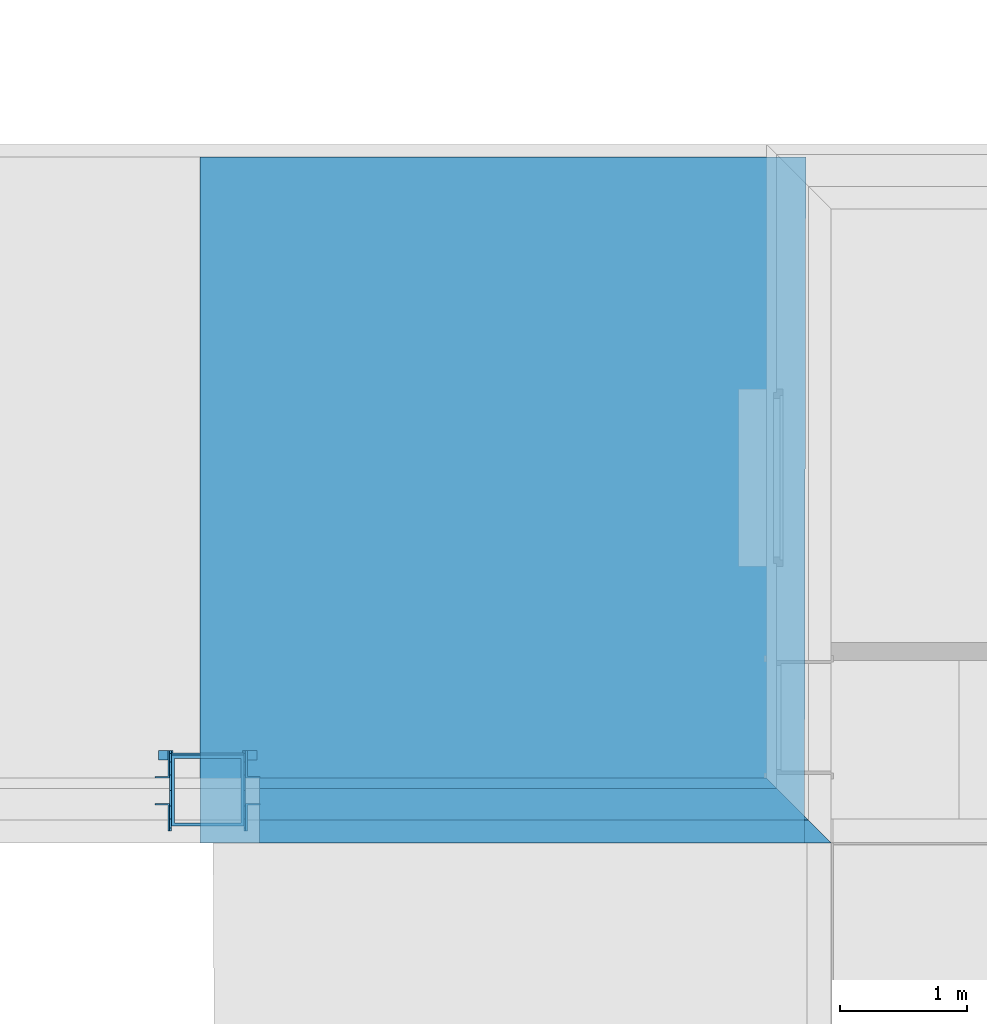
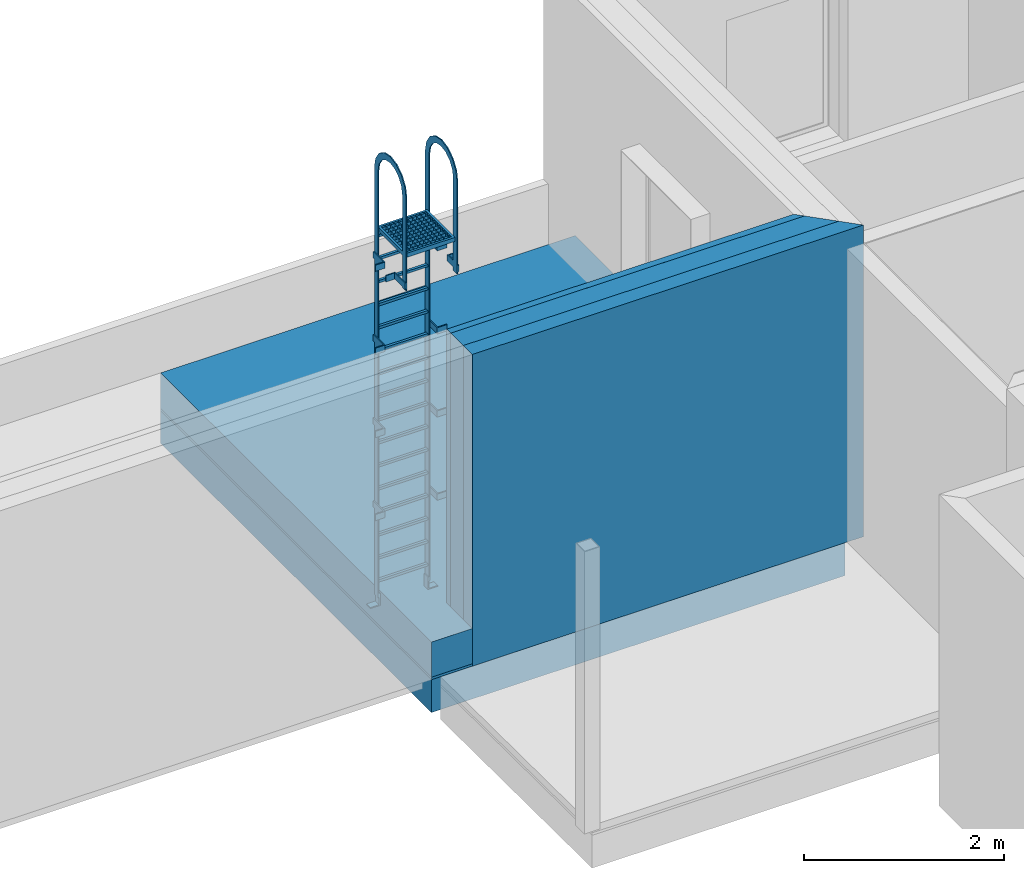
# One storey, part 16 of 100: 6 building element parts, 1 discrete accessory, 2 elements without a shape of their own.
"""IFC2X3 building model written with IfcOpenShell, lengths in millimetres."""

from ifc_helpers import new_model, entity, si_unit, converted_unit, derived_unit, money_unit, direction, frame, origin_with_axes, place, context, subcontext, project, spatial, polyline, outline, extrude, open_shell, faceted_brep, surface_model, source, transform, mapped, material, type_object, element, aggregate, save


model = new_model("IFC2X3")

# Units and contexts
model_context = context("Model", 3, precision=0.01, world=origin_with_axes(), true_north=direction((0.0, 1.0)))
body_context = subcontext(model_context, "Body", "Model", "MODEL_VIEW")
ifc_project = project(units=[si_unit("LENGTHUNIT", "METRE", prefix="MILLI"), si_unit("AREAUNIT", "SQUARE_METRE"), si_unit("VOLUMEUNIT", "CUBIC_METRE"), converted_unit("PLANEANGLEUNIT", "DEGREE", entity("IfcPlaneAngleMeasure", 0.0174532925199), si_unit("PLANEANGLEUNIT", "RADIAN"), dimensions=[0, 0, 0, 0, 0, 0, 0]), si_unit("SOLIDANGLEUNIT", "STERADIAN"), money_unit("EUR"), converted_unit("TIMEUNIT", "Year", entity("IfcTimeMeasure", 31556926.0), si_unit("TIMEUNIT", "SECOND"), dimensions=[0, 0, 1, 0, 0, 0, 0]), si_unit("MASSUNIT", "GRAM", prefix="KILO"), si_unit("THERMODYNAMICTEMPERATUREUNIT", "DEGREE_CELSIUS"), si_unit("LUMINOUSINTENSITYUNIT", "LUMEN"), si_unit("ENERGYUNIT", "JOULE", prefix="MEGA"), derived_unit("THERMALCONDUCTANCEUNIT", [(si_unit("POWERUNIT", "WATT"), 1), (si_unit("LENGTHUNIT", "METRE"), -1), (si_unit("THERMODYNAMICTEMPERATUREUNIT", "KELVIN"), -1)]), derived_unit("SPECIFICHEATCAPACITYUNIT", [(si_unit("ENERGYUNIT", "JOULE"), 1), (si_unit("MASSUNIT", "GRAM", prefix="KILO"), -1), (si_unit("THERMODYNAMICTEMPERATUREUNIT", "KELVIN"), -1)]), derived_unit("MASSDENSITYUNIT", [(si_unit("MASSUNIT", "GRAM", prefix="KILO"), 1), (si_unit("VOLUMEUNIT", "CUBIC_METRE"), -1)])], contexts=[model_context])

# Site, building, storey
site_placement = place(None, origin_with_axes())
site = spatial("IfcSite", under=ifc_project, at=site_placement, Name="Politse- ja Piirivalveameti ning Päästeameti ühishoone", CompositionType="ELEMENT")
building_placement = place(site_placement, origin_with_axes())
building = spatial("IfcBuilding", under=site, at=building_placement, Name="Politse- ja Piirivalveameti ning Päästeameti ühishoone", CompositionType="ELEMENT")
storey_placement = place(building_placement, frame((0.0, 0.0, 3800.0), z_axis=(0.0, 0.0, 1.0), x_axis=(1.0, 0.0, 0.0)))
storey = spatial("IfcBuildingStorey", under=building, at=storey_placement, Name="Teine korrus", CompositionType="ELEMENT", Elevation=3800.0)

# Discrete accessory
discrete_accessory_type = type_object("IfcDiscreteAccessoryType", Name="Vertical Ladder 23")
shared_shape = source(origin_with_axes(), body_context, "Body", "SurfaceModel", [
    faceted_brep([(-287.3, -180.0, 4556.9044187), (287.3, -180.0, 4556.9044187), (287.3, -180.0, 4606.9044187), (-287.3, -180.0, 4606.9044187), (-287.3, 380.0, 4556.9044187), (287.3, 380.0, 4556.9044187), (-261.9, -154.6, 4556.9044187), (261.9, -154.6, 4556.9044187), (261.9, 354.6, 4556.9044187), (-261.9, 354.6, 4556.9044187), (287.3, 380.0, 4606.9044187), (-287.3, 380.0, 4606.9044187), (-261.9, -154.6, 4606.9044187), (-261.9, 354.6, 4606.9044187), (261.9, 354.6, 4606.9044187), (261.9, -154.6, 4606.9044187)], [[[0, 1, 2, 3]], [[0, 4, 5, 1], [6, 7, 8, 9]], [[1, 5, 10, 2]], [[3, 2, 10, 11], [12, 13, 14, 15]], [[4, 0, 3, 11]], [[5, 4, 11, 10]], [[7, 6, 12, 15]], [[8, 7, 15, 14]], [[9, 8, 14, 13]], [[6, 9, 13, 12]]]),
    surface_model("IfcShellBasedSurfaceModel", [(-261.9, -130.0, 4606.9044187), (-261.9, -130.0, 4556.9044187), (261.9, -130.0, 4556.9044187), (261.9, -130.0, 4606.9044187)], [open_shell([[[0, 1, 2, 3]]])]),
    surface_model("IfcShellBasedSurfaceModel", [(-261.9, -80.0, 4606.9044187), (-261.9, -80.0, 4556.9044187), (261.9, -80.0, 4556.9044187), (261.9, -80.0, 4606.9044187)], [open_shell([[[0, 1, 2, 3]]])]),
    surface_model("IfcShellBasedSurfaceModel", [(-261.9, -30.0, 4606.9044187), (-261.9, -30.0, 4556.9044187), (261.9, -30.0, 4556.9044187), (261.9, -30.0, 4606.9044187)], [open_shell([[[0, 1, 2, 3]]])]),
    surface_model("IfcShellBasedSurfaceModel", [(-261.9, 20.0, 4606.9044187), (-261.9, 20.0, 4556.9044187), (261.9, 20.0, 4556.9044187), (261.9, 20.0, 4606.9044187)], [open_shell([[[0, 1, 2, 3]]])]),
    surface_model("IfcShellBasedSurfaceModel", [(-261.9, 70.0, 4606.9044187), (-261.9, 70.0, 4556.9044187), (261.9, 70.0, 4556.9044187), (261.9, 70.0, 4606.9044187)], [open_shell([[[0, 1, 2, 3]]])]),
    surface_model("IfcShellBasedSurfaceModel", [(-261.9, 120.0, 4606.9044187), (-261.9, 120.0, 4556.9044187), (261.9, 120.0, 4556.9044187), (261.9, 120.0, 4606.9044187)], [open_shell([[[0, 1, 2, 3]]])]),
    surface_model("IfcShellBasedSurfaceModel", [(-261.9, 170.0, 4606.9044187), (-261.9, 170.0, 4556.9044187), (261.9, 170.0, 4556.9044187), (261.9, 170.0, 4606.9044187)], [open_shell([[[0, 1, 2, 3]]])]),
    surface_model("IfcShellBasedSurfaceModel", [(-261.9, 220.0, 4606.9044187), (-261.9, 220.0, 4556.9044187), (261.9, 220.0, 4556.9044187), (261.9, 220.0, 4606.9044187)], [open_shell([[[0, 1, 2, 3]]])]),
    surface_model("IfcShellBasedSurfaceModel", [(-261.9, 270.0, 4606.9044187), (-261.9, 270.0, 4556.9044187), (261.9, 270.0, 4556.9044187), (261.9, 270.0, 4606.9044187)], [open_shell([[[0, 1, 2, 3]]])]),
    surface_model("IfcShellBasedSurfaceModel", [(-261.9, 320.0, 4606.9044187), (-261.9, 320.0, 4556.9044187), (261.9, 320.0, 4556.9044187), (261.9, 320.0, 4606.9044187)], [open_shell([[[0, 1, 2, 3]]])]),
    surface_model("IfcShellBasedSurfaceModel", [(262.7, -154.6, 4606.9044187), (262.7, -154.6, 4556.9044187), (262.7, 354.6, 4556.9044187), (262.7, 354.6, 4606.9044187)], [open_shell([[[0, 1, 2, 3]]])]),
    surface_model("IfcShellBasedSurfaceModel", [(212.7, -154.6, 4606.9044187), (212.7, -154.6, 4556.9044187), (212.7, 354.6, 4556.9044187), (212.7, 354.6, 4606.9044187)], [open_shell([[[0, 1, 2, 3]]])]),
    surface_model("IfcShellBasedSurfaceModel", [(162.7, -154.6, 4606.9044187), (162.7, -154.6, 4556.9044187), (162.7, 354.6, 4556.9044187), (162.7, 354.6, 4606.9044187)], [open_shell([[[0, 1, 2, 3]]])]),
    surface_model("IfcShellBasedSurfaceModel", [(112.7, -154.6, 4606.9044187), (112.7, -154.6, 4556.9044187), (112.7, 354.6, 4556.9044187), (112.7, 354.6, 4606.9044187)], [open_shell([[[0, 1, 2, 3]]])]),
    surface_model("IfcShellBasedSurfaceModel", [(62.7, -154.6, 4606.9044187), (62.7, -154.6, 4556.9044187), (62.7, 354.6, 4556.9044187), (62.7, 354.6, 4606.9044187)], [open_shell([[[0, 1, 2, 3]]])]),
    surface_model("IfcShellBasedSurfaceModel", [(12.7, -154.6, 4606.9044187), (12.7, -154.6, 4556.9044187), (12.7, 354.6, 4556.9044187), (12.7, 354.6, 4606.9044187)], [open_shell([[[0, 1, 2, 3]]])]),
    surface_model("IfcShellBasedSurfaceModel", [(-37.3, -154.6, 4606.9044187), (-37.3, -154.6, 4556.9044187), (-37.3, 354.6, 4556.9044187), (-37.3, 354.6, 4606.9044187)], [open_shell([[[0, 1, 2, 3]]])]),
    surface_model("IfcShellBasedSurfaceModel", [(-87.3, -154.6, 4606.9044187), (-87.3, -154.6, 4556.9044187), (-87.3, 354.6, 4556.9044187), (-87.3, 354.6, 4606.9044187)], [open_shell([[[0, 1, 2, 3]]])]),
    surface_model("IfcShellBasedSurfaceModel", [(-137.3, -154.6, 4606.9044187), (-137.3, -154.6, 4556.9044187), (-137.3, 354.6, 4556.9044187), (-137.3, 354.6, 4606.9044187)], [open_shell([[[0, 1, 2, 3]]])]),
    surface_model("IfcShellBasedSurfaceModel", [(-187.3, -154.6, 4606.9044187), (-187.3, -154.6, 4556.9044187), (-187.3, 354.6, 4556.9044187), (-187.3, 354.6, 4606.9044187)], [open_shell([[[0, 1, 2, 3]]])]),
    surface_model("IfcShellBasedSurfaceModel", [(-237.3, -154.6, 4606.9044187), (-237.3, -154.6, 4556.9044187), (-237.3, 354.6, 4556.9044187), (-237.3, 354.6, 4606.9044187)], [open_shell([[[0, 1, 2, 3]]])]),
    faceted_brep([(-388.9, -141.9, 12.7), (-388.9, -141.9, 0.0), (-388.9, -218.1, 0.0), (-388.9, -218.1, 12.7), (-287.3, -141.9, 12.7), (-287.3, -141.9, 152.4), (-274.6, -141.9, 152.4), (-274.6, -141.9, 0.0), (-274.6, -218.1, 0.0), (-274.6, -218.1, 152.4), (-287.3, -218.1, 152.4), (-287.3, -218.1, 12.7)], [[[0, 1, 2, 3]], [[0, 4, 5, 6, 7, 1]], [[1, 7, 8, 2]], [[3, 2, 8, 9, 10, 11]], [[4, 0, 3, 11]], [[5, 4, 11, 10]], [[6, 5, 10, 9]], [[7, 6, 9, 8]]]),
    faceted_brep([(388.9, -141.9, 12.7), (388.9, -218.1, 12.7), (388.9, -218.1, 0.0), (388.9, -141.9, 0.0), (287.3, -141.9, 12.7), (287.3, -218.1, 12.7), (287.3, -218.1, 152.4), (274.6, -218.1, 152.4), (274.6, -218.1, 0.0), (274.6, -141.9, 0.0), (274.6, -141.9, 152.4), (287.3, -141.9, 152.4)], [[[0, 1, 2, 3]], [[4, 5, 1, 0]], [[1, 5, 6, 7, 8, 2]], [[3, 2, 8, 9]], [[0, 3, 9, 10, 11, 4]], [[11, 6, 5, 4]], [[10, 7, 6, 11]], [[9, 8, 7, 10]]]),
    faceted_brep([(-312.7, 212.7, 4205.3044187), (-312.7, 212.7, 4281.5044187), (-312.7, 418.1, 4281.5044187), (-312.7, 418.1, 4205.3044187), (-414.3, 212.7, 4205.3044187), (-414.3, 212.7, 4281.5044187), (-414.3, 200.0, 4281.5044187), (-300.0, 200.0, 4281.5044187), (-300.0, 418.1, 4281.5044187), (-300.0, 418.1, 4205.3044187), (-300.0, 200.0, 4205.3044187), (-414.3, 200.0, 4205.3044187)], [[[0, 1, 2, 3]], [[4, 5, 1, 0]], [[1, 5, 6, 7, 8, 2]], [[3, 2, 8, 9]], [[0, 3, 9, 10, 11, 4]], [[11, 6, 5, 4]], [[10, 7, 6, 11]], [[9, 8, 7, 10]]]),
    faceted_brep([(312.7, 212.7, 4205.3044187), (312.7, 418.1, 4205.3044187), (312.7, 418.1, 4281.5044187), (312.7, 212.7, 4281.5044187), (414.3, 212.7, 4205.3044187), (414.3, 200.0, 4205.3044187), (300.0, 200.0, 4205.3044187), (300.0, 418.1, 4205.3044187), (300.0, 418.1, 4281.5044187), (300.0, 200.0, 4281.5044187), (414.3, 200.0, 4281.5044187), (414.3, 212.7, 4281.5044187)], [[[0, 1, 2, 3]], [[0, 4, 5, 6, 7, 1]], [[1, 7, 8, 2]], [[3, 2, 8, 9, 10, 11]], [[4, 0, 3, 11]], [[5, 4, 11, 10]], [[6, 5, 10, 9]], [[7, 6, 9, 8]]]),
    faceted_brep([(-312.7, 212.7, 4205.3044187), (-312.7, 212.7, 4281.5044187), (-312.7, 418.1, 4281.5044187), (-312.7, 418.1, 4205.3044187), (-414.3, 212.7, 4205.3044187), (-414.3, 212.7, 4281.5044187), (-414.3, 200.0, 4281.5044187), (-300.0, 200.0, 4281.5044187), (-300.0, 418.1, 4281.5044187), (-300.0, 418.1, 4205.3044187), (-300.0, 200.0, 4205.3044187), (-414.3, 200.0, 4205.3044187)], [[[0, 1, 2, 3]], [[4, 5, 1, 0]], [[1, 5, 6, 7, 8, 2]], [[3, 2, 8, 9]], [[0, 3, 9, 10, 11, 4]], [[11, 6, 5, 4]], [[10, 7, 6, 11]], [[9, 8, 7, 10]]]),
    faceted_brep([(312.7, 212.7, 4205.3044187), (312.7, 418.1, 4205.3044187), (312.7, 418.1, 4281.5044187), (312.7, 212.7, 4281.5044187), (414.3, 212.7, 4205.3044187), (414.3, 200.0, 4205.3044187), (300.0, 200.0, 4205.3044187), (300.0, 418.1, 4205.3044187), (300.0, 418.1, 4281.5044187), (300.0, 200.0, 4281.5044187), (414.3, 200.0, 4281.5044187), (414.3, 212.7, 4281.5044187)], [[[0, 1, 2, 3]], [[0, 4, 5, 6, 7, 1]], [[1, 7, 8, 2]], [[3, 2, 8, 9, 10, 11]], [[4, 0, 3, 11]], [[5, 4, 11, 10]], [[6, 5, 10, 9]], [[7, 6, 9, 8]]]),
    faceted_brep([(-312.7, -12.7, 1165.62610468), (-312.7, -218.1, 1165.62610468), (-312.7, -218.1, 1241.82610468), (-312.7, -12.7, 1241.82610468), (-414.3, -12.7, 1165.62610468), (-414.3, 0.0, 1165.62610468), (-300.0, 0.0, 1165.62610468), (-300.0, -218.1, 1165.62610468), (-300.0, -218.1, 1241.82610468), (-300.0, 0.0, 1241.82610468), (-414.3, 0.0, 1241.82610468), (-414.3, -12.7, 1241.82610468)], [[[0, 1, 2, 3]], [[0, 4, 5, 6, 7, 1]], [[1, 7, 8, 2]], [[3, 2, 8, 9, 10, 11]], [[4, 0, 3, 11]], [[5, 4, 11, 10]], [[6, 5, 10, 9]], [[7, 6, 9, 8]]]),
    faceted_brep([(312.7, -12.7, 1165.62610468), (312.7, -12.7, 1241.82610468), (312.7, -218.1, 1241.82610468), (312.7, -218.1, 1165.62610468), (414.3, -12.7, 1165.62610468), (414.3, -12.7, 1241.82610468), (414.3, 0.0, 1241.82610468), (300.0, 0.0, 1241.82610468), (300.0, -218.1, 1241.82610468), (300.0, -218.1, 1165.62610468), (300.0, 0.0, 1165.62610468), (414.3, 0.0, 1165.62610468)], [[[0, 1, 2, 3]], [[4, 5, 1, 0]], [[1, 5, 6, 7, 8, 2]], [[3, 2, 8, 9]], [[0, 3, 9, 10, 11, 4]], [[11, 6, 5, 4]], [[10, 7, 6, 11]], [[9, 8, 7, 10]]]),
    faceted_brep([(-312.7, -12.7, 2178.85220935), (-312.7, -218.1, 2178.85220935), (-312.7, -218.1, 2255.05220935), (-312.7, -12.7, 2255.05220935), (-414.3, -12.7, 2178.85220935), (-414.3, 0.0, 2178.85220935), (-300.0, 0.0, 2178.85220935), (-300.0, -218.1, 2178.85220935), (-300.0, -218.1, 2255.05220935), (-300.0, 0.0, 2255.05220935), (-414.3, 0.0, 2255.05220935), (-414.3, -12.7, 2255.05220935)], [[[0, 1, 2, 3]], [[0, 4, 5, 6, 7, 1]], [[1, 7, 8, 2]], [[3, 2, 8, 9, 10, 11]], [[4, 0, 3, 11]], [[5, 4, 11, 10]], [[6, 5, 10, 9]], [[7, 6, 9, 8]]]),
    faceted_brep([(312.7, -12.7, 2178.85220935), (312.7, -12.7, 2255.05220935), (312.7, -218.1, 2255.05220935), (312.7, -218.1, 2178.85220935), (414.3, -12.7, 2178.85220935), (414.3, -12.7, 2255.05220935), (414.3, 0.0, 2255.05220935), (300.0, 0.0, 2255.05220935), (300.0, -218.1, 2255.05220935), (300.0, -218.1, 2178.85220935), (300.0, 0.0, 2178.85220935), (414.3, 0.0, 2178.85220935)], [[[0, 1, 2, 3]], [[4, 5, 1, 0]], [[1, 5, 6, 7, 8, 2]], [[3, 2, 8, 9]], [[0, 3, 9, 10, 11, 4]], [[11, 6, 5, 4]], [[10, 7, 6, 11]], [[9, 8, 7, 10]]]),
    faceted_brep([(-312.7, -12.7, 3192.07831403), (-312.7, -218.1, 3192.07831403), (-312.7, -218.1, 3268.27831403), (-312.7, -12.7, 3268.27831403), (-414.3, -12.7, 3192.07831403), (-414.3, 0.0, 3192.07831403), (-300.0, 0.0, 3192.07831403), (-300.0, -218.1, 3192.07831403), (-300.0, -218.1, 3268.27831403), (-300.0, 0.0, 3268.27831403), (-414.3, 0.0, 3268.27831403), (-414.3, -12.7, 3268.27831403)], [[[0, 1, 2, 3]], [[0, 4, 5, 6, 7, 1]], [[1, 7, 8, 2]], [[3, 2, 8, 9, 10, 11]], [[4, 0, 3, 11]], [[5, 4, 11, 10]], [[6, 5, 10, 9]], [[7, 6, 9, 8]]]),
    faceted_brep([(312.7, -12.7, 3192.07831403), (312.7, -12.7, 3268.27831403), (312.7, -218.1, 3268.27831403), (312.7, -218.1, 3192.07831403), (414.3, -12.7, 3192.07831403), (414.3, -12.7, 3268.27831403), (414.3, 0.0, 3268.27831403), (300.0, 0.0, 3268.27831403), (300.0, -218.1, 3268.27831403), (300.0, -218.1, 3192.07831403), (300.0, 0.0, 3192.07831403), (414.3, 0.0, 3192.07831403)], [[[0, 1, 2, 3]], [[4, 5, 1, 0]], [[1, 5, 6, 7, 8, 2]], [[3, 2, 8, 9]], [[0, 3, 9, 10, 11, 4]], [[11, 6, 5, 4]], [[10, 7, 6, 11]], [[9, 8, 7, 10]]]),
    faceted_brep([(-312.7, -12.7, 4205.3044187), (-312.7, -218.1, 4205.3044187), (-312.7, -218.1, 4281.5044187), (-312.7, -12.7, 4281.5044187), (-414.3, -12.7, 4205.3044187), (-414.3, 0.0, 4205.3044187), (-300.0, 0.0, 4205.3044187), (-300.0, -218.1, 4205.3044187), (-300.0, -218.1, 4281.5044187), (-300.0, 0.0, 4281.5044187), (-414.3, 0.0, 4281.5044187), (-414.3, -12.7, 4281.5044187)], [[[0, 1, 2, 3]], [[0, 4, 5, 6, 7, 1]], [[1, 7, 8, 2]], [[3, 2, 8, 9, 10, 11]], [[4, 0, 3, 11]], [[5, 4, 11, 10]], [[6, 5, 10, 9]], [[7, 6, 9, 8]]]),
    faceted_brep([(312.7, -12.7, 4205.3044187), (312.7, -12.7, 4281.5044187), (312.7, -218.1, 4281.5044187), (312.7, -218.1, 4205.3044187), (414.3, -12.7, 4205.3044187), (414.3, -12.7, 4281.5044187), (414.3, 0.0, 4281.5044187), (300.0, 0.0, 4281.5044187), (300.0, -218.1, 4281.5044187), (300.0, -218.1, 4205.3044187), (300.0, 0.0, 4205.3044187), (414.3, 0.0, 4205.3044187)], [[[0, 1, 2, 3]], [[4, 5, 1, 0]], [[1, 5, 6, 7, 8, 2]], [[3, 2, 8, 9]], [[0, 3, 9, 10, 11, 4]], [[11, 6, 5, 4]], [[10, 7, 6, 11]], [[9, 8, 7, 10]]]),
    faceted_brep([(-287.3, -141.9, 101.6), (-287.3, -218.1, 101.6), (-300.0, -218.1, 101.6), (-300.0, -141.9, 101.6), (-287.3, -141.9, 5306.9044187), (-287.3, -123.486458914, 5399.47554099), (-287.3, -71.049130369, 5477.95354907), (-287.3, 7.42887771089, 5530.39087762), (-287.3, 100.0, 5548.8044187), (-287.3, 192.571122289, 5530.39087762), (-287.3, 271.049130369, 5477.95354907), (-287.3, 323.486458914, 5399.47554099), (-287.3, 341.9, 5306.9044187), (-287.3, 341.9, 4179.9044187), (-287.3, 418.1, 4179.9044187), (-287.3, 418.1, 5306.9044187), (-287.3, 393.886079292, 5428.63601854), (-287.3, 324.930667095, 5531.8350858), (-287.3, 221.731599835, 5600.79049799), (-287.3, 100.0, 5625.0044187), (-287.3, -21.7315998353, 5600.79049799), (-287.3, -124.930667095, 5531.8350858), (-287.3, -193.886079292, 5428.63601854), (-287.3, -218.1, 5306.9044187), (-300.0, -218.1, 5306.9044187), (-300.0, -193.886079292, 5428.63601854), (-300.0, -124.930667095, 5531.8350858), (-300.0, -21.7315998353, 5600.79049799), (-300.0, 100.0, 5625.0044187), (-300.0, 221.731599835, 5600.79049799), (-300.0, 324.930667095, 5531.8350858), (-300.0, 393.886079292, 5428.63601854), (-300.0, 418.1, 5306.9044187), (-300.0, 418.1, 4179.9044187), (-300.0, 341.9, 4179.9044187), (-300.0, 341.9, 5306.9044187), (-300.0, 323.486458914, 5399.47554099), (-300.0, 271.049130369, 5477.95354907), (-300.0, 192.571122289, 5530.39087762), (-300.0, 100.0, 5548.8044187), (-300.0, 7.42887771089, 5530.39087762), (-300.0, -71.049130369, 5477.95354907), (-300.0, -123.486458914, 5399.47554099), (-300.0, -141.9, 5306.9044187)], [[[0, 1, 2, 3]], [[0, 4, 5, 6, 7, 8, 9, 10, 11, 12, 13, 14, 15, 16, 17, 18, 19, 20, 21, 22, 23, 1]], [[1, 23, 24, 2]], [[3, 2, 24, 25, 26, 27, 28, 29, 30, 31, 32, 33, 34, 35, 36, 37, 38, 39, 40, 41, 42, 43]], [[4, 0, 3, 43]], [[5, 4, 43, 42]], [[6, 5, 42, 41]], [[7, 6, 41, 40]], [[8, 7, 40, 39]], [[9, 8, 39, 38]], [[10, 9, 38, 37]], [[11, 10, 37, 36]], [[12, 11, 36, 35]], [[13, 12, 35, 34]], [[14, 13, 34, 33]], [[15, 14, 33, 32]], [[16, 15, 32, 31]], [[17, 16, 31, 30]], [[18, 17, 30, 29]], [[19, 18, 29, 28]], [[20, 19, 28, 27]], [[21, 20, 27, 26]], [[22, 21, 26, 25]], [[23, 22, 25, 24]]]),
    faceted_brep([(300.0, -141.9, 101.6), (300.0, -218.1, 101.6), (287.3, -218.1, 101.6), (287.3, -141.9, 101.6), (300.0, -141.9, 5306.9044187), (300.0, -123.486458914, 5399.47554099), (300.0, -71.049130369, 5477.95354907), (300.0, 7.42887771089, 5530.39087762), (300.0, 100.0, 5548.8044187), (300.0, 192.571122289, 5530.39087762), (300.0, 271.049130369, 5477.95354907), (300.0, 323.486458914, 5399.47554099), (300.0, 341.9, 5306.9044187), (300.0, 341.9, 4179.9044187), (300.0, 418.1, 4179.9044187), (300.0, 418.1, 5306.9044187), (300.0, 393.886079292, 5428.63601854), (300.0, 324.930667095, 5531.8350858), (300.0, 221.731599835, 5600.79049799), (300.0, 100.0, 5625.0044187), (300.0, -21.7315998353, 5600.79049799), (300.0, -124.930667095, 5531.8350858), (300.0, -193.886079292, 5428.63601854), (300.0, -218.1, 5306.9044187), (287.3, -218.1, 5306.9044187), (287.3, -193.886079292, 5428.63601854), (287.3, -124.930667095, 5531.8350858), (287.3, -21.7315998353, 5600.79049799), (287.3, 100.0, 5625.0044187), (287.3, 221.731599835, 5600.79049799), (287.3, 324.930667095, 5531.8350858), (287.3, 393.886079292, 5428.63601854), (287.3, 418.1, 5306.9044187), (287.3, 418.1, 4179.9044187), (287.3, 341.9, 4179.9044187), (287.3, 341.9, 5306.9044187), (287.3, 323.486458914, 5399.47554099), (287.3, 271.049130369, 5477.95354907), (287.3, 192.571122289, 5530.39087762), (287.3, 100.0, 5548.8044187), (287.3, 7.42887771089, 5530.39087762), (287.3, -71.049130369, 5477.95354907), (287.3, -123.486458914, 5399.47554099), (287.3, -141.9, 5306.9044187)], [[[0, 1, 2, 3]], [[0, 4, 5, 6, 7, 8, 9, 10, 11, 12, 13, 14, 15, 16, 17, 18, 19, 20, 21, 22, 23, 1]], [[1, 23, 24, 2]], [[3, 2, 24, 25, 26, 27, 28, 29, 30, 31, 32, 33, 34, 35, 36, 37, 38, 39, 40, 41, 42, 43]], [[4, 0, 3, 43]], [[5, 4, 43, 42]], [[6, 5, 42, 41]], [[7, 6, 41, 40]], [[8, 7, 40, 39]], [[9, 8, 39, 38]], [[10, 9, 38, 37]], [[11, 10, 37, 36]], [[12, 11, 36, 35]], [[13, 12, 35, 34]], [[14, 13, 34, 33]], [[15, 14, 33, 32]], [[16, 15, 32, 31]], [[17, 16, 31, 30]], [[18, 17, 30, 29]], [[19, 18, 29, 28]], [[20, 19, 28, 27]], [[21, 20, 27, 26]], [[22, 21, 26, 25]], [[23, 22, 25, 24]]]),
    faceted_brep([(287.3, -195.0, 270.0), (-287.3, -195.0, 270.0), (-287.3, -165.0, 270.0), (287.3, -165.0, 270.0), (287.3, -195.0, 300.0), (-287.3, -195.0, 300.0), (-287.3, -165.0, 300.0), (287.3, -165.0, 300.0)], [[[0, 1, 2, 3]], [[1, 0, 4, 5]], [[2, 1, 5, 6]], [[3, 2, 6, 7]], [[0, 3, 7, 4]], [[5, 4, 7, 6]]]),
    faceted_brep([(287.3, -195.0, 550.46029458), (-287.3, -195.0, 550.46029458), (-287.3, -165.0, 550.46029458), (287.3, -165.0, 550.46029458), (287.3, -195.0, 580.46029458), (-287.3, -195.0, 580.46029458), (-287.3, -165.0, 580.46029458), (287.3, -165.0, 580.46029458)], [[[0, 1, 2, 3]], [[1, 0, 4, 5]], [[2, 1, 5, 6]], [[3, 2, 6, 7]], [[0, 3, 7, 4]], [[5, 4, 7, 6]]]),
    faceted_brep([(287.3, -195.0, 830.92058916), (-287.3, -195.0, 830.92058916), (-287.3, -165.0, 830.92058916), (287.3, -165.0, 830.92058916), (287.3, -195.0, 860.92058916), (-287.3, -195.0, 860.92058916), (-287.3, -165.0, 860.92058916), (287.3, -165.0, 860.92058916)], [[[0, 1, 2, 3]], [[1, 0, 4, 5]], [[2, 1, 5, 6]], [[3, 2, 6, 7]], [[0, 3, 7, 4]], [[5, 4, 7, 6]]]),
    faceted_brep([(287.3, -195.0, 1111.38088374), (-287.3, -195.0, 1111.38088374), (-287.3, -165.0, 1111.38088374), (287.3, -165.0, 1111.38088374), (287.3, -195.0, 1141.38088374), (-287.3, -195.0, 1141.38088374), (-287.3, -165.0, 1141.38088374), (287.3, -165.0, 1141.38088374)], [[[0, 1, 2, 3]], [[1, 0, 4, 5]], [[2, 1, 5, 6]], [[3, 2, 6, 7]], [[0, 3, 7, 4]], [[5, 4, 7, 6]]]),
    faceted_brep([(287.3, -195.0, 1391.84117832), (-287.3, -195.0, 1391.84117832), (-287.3, -165.0, 1391.84117832), (287.3, -165.0, 1391.84117832), (287.3, -195.0, 1421.84117832), (-287.3, -195.0, 1421.84117832), (-287.3, -165.0, 1421.84117832), (287.3, -165.0, 1421.84117832)], [[[0, 1, 2, 3]], [[1, 0, 4, 5]], [[2, 1, 5, 6]], [[3, 2, 6, 7]], [[0, 3, 7, 4]], [[5, 4, 7, 6]]]),
    faceted_brep([(287.3, -195.0, 1672.3014729), (-287.3, -195.0, 1672.3014729), (-287.3, -165.0, 1672.3014729), (287.3, -165.0, 1672.3014729), (287.3, -195.0, 1702.3014729), (-287.3, -195.0, 1702.3014729), (-287.3, -165.0, 1702.3014729), (287.3, -165.0, 1702.3014729)], [[[0, 1, 2, 3]], [[1, 0, 4, 5]], [[2, 1, 5, 6]], [[3, 2, 6, 7]], [[0, 3, 7, 4]], [[5, 4, 7, 6]]]),
    faceted_brep([(287.3, -195.0, 1952.76176748), (-287.3, -195.0, 1952.76176748), (-287.3, -165.0, 1952.76176748), (287.3, -165.0, 1952.76176748), (287.3, -195.0, 1982.76176748), (-287.3, -195.0, 1982.76176748), (-287.3, -165.0, 1982.76176748), (287.3, -165.0, 1982.76176748)], [[[0, 1, 2, 3]], [[1, 0, 4, 5]], [[2, 1, 5, 6]], [[3, 2, 6, 7]], [[0, 3, 7, 4]], [[5, 4, 7, 6]]]),
    faceted_brep([(287.3, -195.0, 2233.22206206), (-287.3, -195.0, 2233.22206206), (-287.3, -165.0, 2233.22206206), (287.3, -165.0, 2233.22206206), (287.3, -195.0, 2263.22206206), (-287.3, -195.0, 2263.22206206), (-287.3, -165.0, 2263.22206206), (287.3, -165.0, 2263.22206206)], [[[0, 1, 2, 3]], [[1, 0, 4, 5]], [[2, 1, 5, 6]], [[3, 2, 6, 7]], [[0, 3, 7, 4]], [[5, 4, 7, 6]]]),
    faceted_brep([(287.3, -195.0, 2513.68235664), (-287.3, -195.0, 2513.68235664), (-287.3, -165.0, 2513.68235664), (287.3, -165.0, 2513.68235664), (287.3, -195.0, 2543.68235664), (-287.3, -195.0, 2543.68235664), (-287.3, -165.0, 2543.68235664), (287.3, -165.0, 2543.68235664)], [[[0, 1, 2, 3]], [[1, 0, 4, 5]], [[2, 1, 5, 6]], [[3, 2, 6, 7]], [[0, 3, 7, 4]], [[5, 4, 7, 6]]]),
    faceted_brep([(287.3, -195.0, 2794.14265122), (-287.3, -195.0, 2794.14265122), (-287.3, -165.0, 2794.14265122), (287.3, -165.0, 2794.14265122), (287.3, -195.0, 2824.14265122), (-287.3, -195.0, 2824.14265122), (-287.3, -165.0, 2824.14265122), (287.3, -165.0, 2824.14265122)], [[[0, 1, 2, 3]], [[1, 0, 4, 5]], [[2, 1, 5, 6]], [[3, 2, 6, 7]], [[0, 3, 7, 4]], [[5, 4, 7, 6]]]),
    faceted_brep([(287.3, -195.0, 3074.6029458), (-287.3, -195.0, 3074.6029458), (-287.3, -165.0, 3074.6029458), (287.3, -165.0, 3074.6029458), (287.3, -195.0, 3104.6029458), (-287.3, -195.0, 3104.6029458), (-287.3, -165.0, 3104.6029458), (287.3, -165.0, 3104.6029458)], [[[0, 1, 2, 3]], [[1, 0, 4, 5]], [[2, 1, 5, 6]], [[3, 2, 6, 7]], [[0, 3, 7, 4]], [[5, 4, 7, 6]]]),
    faceted_brep([(287.3, -195.0, 3355.06324038), (-287.3, -195.0, 3355.06324038), (-287.3, -165.0, 3355.06324038), (287.3, -165.0, 3355.06324038), (287.3, -195.0, 3385.06324038), (-287.3, -195.0, 3385.06324038), (-287.3, -165.0, 3385.06324038), (287.3, -165.0, 3385.06324038)], [[[0, 1, 2, 3]], [[1, 0, 4, 5]], [[2, 1, 5, 6]], [[3, 2, 6, 7]], [[0, 3, 7, 4]], [[5, 4, 7, 6]]]),
    faceted_brep([(287.3, -195.0, 3635.52353496), (-287.3, -195.0, 3635.52353496), (-287.3, -165.0, 3635.52353496), (287.3, -165.0, 3635.52353496), (287.3, -195.0, 3665.52353496), (-287.3, -195.0, 3665.52353496), (-287.3, -165.0, 3665.52353496), (287.3, -165.0, 3665.52353496)], [[[0, 1, 2, 3]], [[1, 0, 4, 5]], [[2, 1, 5, 6]], [[3, 2, 6, 7]], [[0, 3, 7, 4]], [[5, 4, 7, 6]]]),
    faceted_brep([(287.3, -195.0, 3915.98382954), (-287.3, -195.0, 3915.98382954), (-287.3, -165.0, 3915.98382954), (287.3, -165.0, 3915.98382954), (287.3, -195.0, 3945.98382954), (-287.3, -195.0, 3945.98382954), (-287.3, -165.0, 3945.98382954), (287.3, -165.0, 3945.98382954)], [[[0, 1, 2, 3]], [[1, 0, 4, 5]], [[2, 1, 5, 6]], [[3, 2, 6, 7]], [[0, 3, 7, 4]], [[5, 4, 7, 6]]]),
    faceted_brep([(287.3, -195.0, 4196.44412412), (-287.3, -195.0, 4196.44412412), (-287.3, -165.0, 4196.44412412), (287.3, -165.0, 4196.44412412), (287.3, -195.0, 4226.44412412), (-287.3, -195.0, 4226.44412412), (-287.3, -165.0, 4226.44412412), (287.3, -165.0, 4226.44412412)], [[[0, 1, 2, 3]], [[1, 0, 4, 5]], [[2, 1, 5, 6]], [[3, 2, 6, 7]], [[0, 3, 7, 4]], [[5, 4, 7, 6]]]),
    faceted_brep([(287.3, -195.0, 4476.9044187), (-287.3, -195.0, 4476.9044187), (-287.3, -165.0, 4476.9044187), (287.3, -165.0, 4476.9044187), (287.3, -195.0, 4506.9044187), (-287.3, -195.0, 4506.9044187), (-287.3, -165.0, 4506.9044187), (287.3, -165.0, 4506.9044187)], [[[0, 1, 2, 3]], [[1, 0, 4, 5]], [[2, 1, 5, 6]], [[3, 2, 6, 7]], [[0, 3, 7, 4]], [[5, 4, 7, 6]]]),
])
discrete_accessory_placement = place(storey_placement, frame((11981.6400645, 16512.2250044, 584.016170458), z_axis=(0.0, 0.0, 1.0), x_axis=(-1.0, 0.0, 0.0)))
element("IfcDiscreteAccessory", 1, at=discrete_accessory_placement, inside=storey, type_object=discrete_accessory_type, Name="VÄLISREDEL 2", context=body_context, shape_type="MappedRepresentation", body=[
    mapped(shared_shape, transform((0.0, 0.0, 0.0))),
])

# Slab, building element parts
slab_type = type_object("IfcSlabType", Name="KL-02_Katuslagi paneel 400 860", PredefinedType="ROOF")
slab_placement = place(storey_placement, frame((11919.6900604, 16000.024479, 460.0), z_axis=(0.0, 0.0, 1.0), x_axis=(1.0, 0.0, 0.0)))
slab = element("IfcSlab", 2, at=slab_placement, inside=storey, type_object=slab_type, Name="KL-04", PredefinedType="ROOF")
ifc_material_1 = material(Name="KON-04_Betoon - Konstuktsioon")
building_element_part_1_placement = place(slab_placement, origin_with_axes())
building_element_part_1 = element("IfcBuildingElementPart", 3, at=building_element_part_1_placement, material=ifc_material_1, Name="KON-04_Betoon - Konstuktsioon", context=body_context, shape_type="SweptSolid", body=[
    extrude(outline(polyline([(0.0, 0.0), (4770.39348205, 0.0), (4781.18767198, 5409.92760421), (0.0, 5409.92760421), (0.0, 0.0)])), frame((0.0, 0.0, -860.0), z_axis=(0.0, 0.0, 1.0), x_axis=(1.0, 0.0, 0.0)), (0.0, 0.0, 1.0), 400.0),
])
ifc_material_2 = material(Name="Betoon")
building_element_part_2_placement = place(slab_placement, origin_with_axes())
building_element_part_2 = element("IfcBuildingElementPart", 4, at=building_element_part_2_placement, material=ifc_material_2, Name="Betoon", context=body_context, shape_type="SweptSolid", body=[
    extrude(outline(polyline([(0.0, 0.0), (4770.39348205, 0.0), (4781.18767198, 5409.92760421), (0.0, 5409.92760421), (0.0, 0.0)])), frame((0.0, 0.0, -460.0), z_axis=(0.0, 0.0, 1.0), x_axis=(1.0, 0.0, 0.0)), (0.0, 0.0, 1.0), 30.0),
])
ifc_material_3 = material(Name="SOJ-02_Soojustus - Fiiber Kõva")
building_element_part_3_placement = place(slab_placement, origin_with_axes())
building_element_part_3 = element("IfcBuildingElementPart", 5, at=building_element_part_3_placement, material=ifc_material_3, Name="SOJ-02_Soojustus - Fiiber Kõva", context=body_context, shape_type="SweptSolid", body=[
    extrude(outline(polyline([(0.0, 0.0), (4770.39348205, 0.0), (4781.18767198, 5409.92760421), (0.0, 5409.92760421), (0.0, 0.0)])), frame((0.0, 0.0, -430.0), z_axis=(0.0, 0.0, 1.0), x_axis=(1.0, 0.0, 0.0)), (0.0, 0.0, 1.0), 430.0),
])
aggregate(slab, [building_element_part_1, building_element_part_2, building_element_part_3])

# Wall, building element parts
wall_type = type_object("IfcWallType", Name="VS-01_välissein 510", PredefinedType="NOTDEFINED")
wall_placement = place(storey_placement, frame((12390.2410067, 16000.0244444, 0.0), z_axis=(0.0, 0.0, 1.0), x_axis=(1.0, 0.0, 0.0)))
wall = element("IfcWall", 6, at=wall_placement, inside=storey, type_object=wall_type, Name="VS-01")
building_element_part_4_placement = place(wall_placement, origin_with_axes())
building_element_part_4 = element("IfcBuildingElementPart", 7, at=building_element_part_4_placement, material=ifc_material_1, Name="KON-04_Betoon - Konstuktsioon", context=body_context, shape_type="SweptSolid", body=[
    extrude(outline(polyline([(0.0, 0.0), (4510.01840066, 0.0), (4330.0112004, 180.0), (0.0, 180.0), (0.0, 0.0)])), origin_with_axes(), (0.0, 0.0, 1.0), 3800.0),
])
ifc_material_4 = material(Name="SOJ-06_Soojustus - Plastik Kõva")
building_element_part_5_placement = place(wall_placement, origin_with_axes())
building_element_part_5 = element("IfcBuildingElementPart", 8, at=building_element_part_5_placement, material=ifc_material_4, Name="SOJ-06_Soojustus - Plastik Kõva", context=body_context, shape_type="SweptSolid", body=[
    extrude(outline(polyline([(0.0, 180.0), (4330.0112004, 180.0), (4080.00120004, 430.0), (0.0, 430.0), (0.0, 180.0)])), origin_with_axes(), (0.0, 0.0, 1.0), 3800.0),
])
building_element_part_6_placement = place(wall_placement, origin_with_axes())
building_element_part_6 = element("IfcBuildingElementPart", 9, at=building_element_part_6_placement, material=ifc_material_1, Name="KON-04_Betoon - Konstuktsioon", context=body_context, shape_type="SweptSolid", body=[
    extrude(outline(polyline([(0.0, 430.0), (4080.00120004, 430.0), (3999.99799993, 510.0), (0.0, 510.0), (0.0, 430.0)])), origin_with_axes(), (0.0, 0.0, 1.0), 3800.0),
])
aggregate(wall, [building_element_part_4, building_element_part_5, building_element_part_6])

save(model, "model.ifc")
